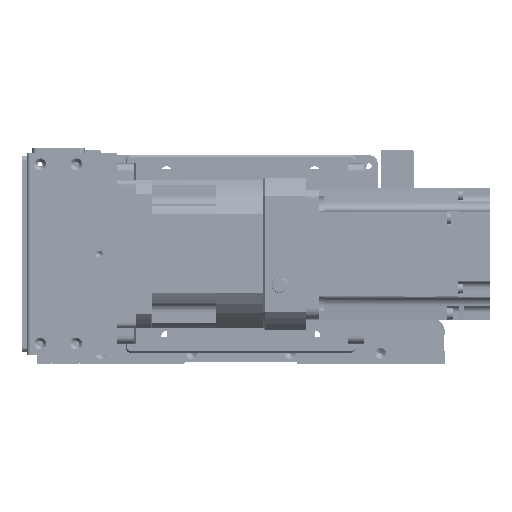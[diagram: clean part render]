
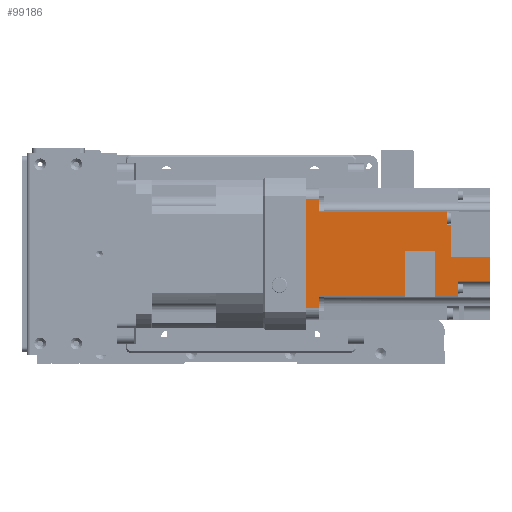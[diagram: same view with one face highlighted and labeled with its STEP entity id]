
A CAD part, front view. The second image highlights one B-rep face of the part: STEP entity #99186.
In plain terms, the highlighted planar face has unit normal (0, -1, 0.003).
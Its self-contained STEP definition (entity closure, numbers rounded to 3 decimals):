
#4140=PLANE('',#107506);
#10253=FACE_OUTER_BOUND('',#16115,.T.);
#16115=EDGE_LOOP('',(#83112,#83113,#83114,#83115,#83116,#83117,#83118,#83119,
#83120,#83121,#83122,#83123,#83124,#83125,#83126,#83127,#83128,#83129,#83130,
#83131,#83132,#83133,#83134,#83135,#83136,#83137));
#23862=LINE('',#157985,#35032);
#23863=LINE('',#157988,#35033);
#23868=LINE('',#158030,#35038);
#23872=LINE('',#158059,#35042);
#23875=LINE('',#158070,#35045);
#23876=LINE('',#158074,#35046);
#23877=LINE('',#158076,#35047);
#23878=LINE('',#158077,#35048);
#23879=LINE('',#158079,#35049);
#23880=LINE('',#158081,#35050);
#23881=LINE('',#158083,#35051);
#23882=LINE('',#158084,#35052);
#23883=LINE('',#158086,#35053);
#23884=LINE('',#158088,#35054);
#23885=LINE('',#158090,#35055);
#23886=LINE('',#158092,#35056);
#23887=LINE('',#158094,#35057);
#23888=LINE('',#158096,#35058);
#23889=LINE('',#158098,#35059);
#23890=LINE('',#158100,#35060);
#23891=LINE('',#158102,#35061);
#23892=LINE('',#158104,#35062);
#23893=LINE('',#158106,#35063);
#23894=LINE('',#158108,#35064);
#23895=LINE('',#158110,#35065);
#23896=LINE('',#158111,#35066);
#35032=VECTOR('',#126022,3.);
#35033=VECTOR('',#126025,0.009);
#35038=VECTOR('',#126064,0.009);
#35042=VECTOR('',#126094,7.342);
#35045=VECTOR('',#126105,8.);
#35046=VECTOR('',#126108,2.548);
#35047=VECTOR('',#126109,2.682);
#35048=VECTOR('',#126110,75.);
#35049=VECTOR('',#126111,66.);
#35050=VECTOR('',#126112,8.);
#35051=VECTOR('',#126113,7.342);
#35052=VECTOR('',#126114,3.);
#35053=VECTOR('',#126115,49.1);
#35054=VECTOR('',#126116,27.466);
#35055=VECTOR('',#126117,18.55);
#35056=VECTOR('',#126118,27.466);
#35057=VECTOR('',#126119,13.85);
#35058=VECTOR('',#126120,8.966);
#35059=VECTOR('',#126121,19.5);
#35060=VECTOR('',#126122,14.5);
#35061=VECTOR('',#126123,23.5);
#35062=VECTOR('',#126124,19.4);
#35063=VECTOR('',#126125,0.5);
#35064=VECTOR('',#126126,0.001);
#35065=VECTOR('',#126127,2.);
#35066=VECTOR('',#126128,3.238);
#48792=VERTEX_POINT('',#157979);
#48794=VERTEX_POINT('',#157983);
#48795=VERTEX_POINT('',#157987);
#48814=VERTEX_POINT('',#158027);
#48815=VERTEX_POINT('',#158029);
#48826=VERTEX_POINT('',#158056);
#48831=VERTEX_POINT('',#158068);
#48832=VERTEX_POINT('',#158072);
#48833=VERTEX_POINT('',#158073);
#48834=VERTEX_POINT('',#158075);
#48835=VERTEX_POINT('',#158078);
#48836=VERTEX_POINT('',#158080);
#48837=VERTEX_POINT('',#158082);
#48838=VERTEX_POINT('',#158085);
#48839=VERTEX_POINT('',#158087);
#48840=VERTEX_POINT('',#158089);
#48841=VERTEX_POINT('',#158091);
#48842=VERTEX_POINT('',#158093);
#48843=VERTEX_POINT('',#158095);
#48844=VERTEX_POINT('',#158097);
#48845=VERTEX_POINT('',#158099);
#48846=VERTEX_POINT('',#158101);
#48847=VERTEX_POINT('',#158103);
#48848=VERTEX_POINT('',#158105);
#48849=VERTEX_POINT('',#158107);
#48850=VERTEX_POINT('',#158109);
#60928=EDGE_CURVE('',#48794,#48792,#23862,.T.);
#60929=EDGE_CURVE('',#48792,#48795,#23863,.T.);
#60949=EDGE_CURVE('',#48814,#48815,#23868,.T.);
#60963=EDGE_CURVE('',#48794,#48826,#23872,.T.);
#60969=EDGE_CURVE('',#48826,#48831,#23875,.T.);
#60970=EDGE_CURVE('',#48832,#48833,#23876,.T.);
#60971=EDGE_CURVE('',#48834,#48832,#23877,.T.);
#60972=EDGE_CURVE('',#48834,#48795,#23878,.T.);
#60973=EDGE_CURVE('',#48831,#48835,#23879,.T.);
#60974=EDGE_CURVE('',#48835,#48836,#23880,.T.);
#60975=EDGE_CURVE('',#48836,#48837,#23881,.T.);
#60976=EDGE_CURVE('',#48837,#48815,#23882,.T.);
#60977=EDGE_CURVE('',#48838,#48814,#23883,.T.);
#60978=EDGE_CURVE('',#48838,#48839,#23884,.T.);
#60979=EDGE_CURVE('',#48839,#48840,#23885,.T.);
#60980=EDGE_CURVE('',#48841,#48840,#23886,.T.);
#60981=EDGE_CURVE('',#48841,#48842,#23887,.T.);
#60982=EDGE_CURVE('',#48843,#48842,#23888,.T.);
#60983=EDGE_CURVE('',#48844,#48843,#23889,.T.);
#60984=EDGE_CURVE('',#48844,#48845,#23890,.T.);
#60985=EDGE_CURVE('',#48845,#48846,#23891,.T.);
#60986=EDGE_CURVE('',#48846,#48847,#23892,.T.);
#60987=EDGE_CURVE('',#48847,#48848,#23893,.T.);
#60988=EDGE_CURVE('',#48849,#48848,#23894,.T.);
#60989=EDGE_CURVE('',#48849,#48850,#23895,.T.);
#60990=EDGE_CURVE('',#48833,#48850,#23896,.T.);
#83112=ORIENTED_EDGE('',*,*,#60970,.F.);
#83113=ORIENTED_EDGE('',*,*,#60971,.F.);
#83114=ORIENTED_EDGE('',*,*,#60972,.T.);
#83115=ORIENTED_EDGE('',*,*,#60929,.F.);
#83116=ORIENTED_EDGE('',*,*,#60928,.F.);
#83117=ORIENTED_EDGE('',*,*,#60963,.T.);
#83118=ORIENTED_EDGE('',*,*,#60969,.T.);
#83119=ORIENTED_EDGE('',*,*,#60973,.T.);
#83120=ORIENTED_EDGE('',*,*,#60974,.T.);
#83121=ORIENTED_EDGE('',*,*,#60975,.T.);
#83122=ORIENTED_EDGE('',*,*,#60976,.T.);
#83123=ORIENTED_EDGE('',*,*,#60949,.F.);
#83124=ORIENTED_EDGE('',*,*,#60977,.F.);
#83125=ORIENTED_EDGE('',*,*,#60978,.T.);
#83126=ORIENTED_EDGE('',*,*,#60979,.T.);
#83127=ORIENTED_EDGE('',*,*,#60980,.F.);
#83128=ORIENTED_EDGE('',*,*,#60981,.T.);
#83129=ORIENTED_EDGE('',*,*,#60982,.F.);
#83130=ORIENTED_EDGE('',*,*,#60983,.F.);
#83131=ORIENTED_EDGE('',*,*,#60984,.T.);
#83132=ORIENTED_EDGE('',*,*,#60985,.T.);
#83133=ORIENTED_EDGE('',*,*,#60986,.T.);
#83134=ORIENTED_EDGE('',*,*,#60987,.T.);
#83135=ORIENTED_EDGE('',*,*,#60988,.F.);
#83136=ORIENTED_EDGE('',*,*,#60989,.T.);
#83137=ORIENTED_EDGE('',*,*,#60990,.F.);
#99186=ADVANCED_FACE('',(#10253),#4140,.F.);
#107506=AXIS2_PLACEMENT_3D('',#158071,#126106,#126107);
#126022=DIRECTION('',(0.,0.,-1.));
#126025=DIRECTION('',(1.,0.,0.));
#126064=DIRECTION('',(1.,0.,0.));
#126094=DIRECTION('',(1.,0.,0.));
#126105=DIRECTION('',(0.,0.,1.));
#126106=DIRECTION('center_axis',(0.,1.,0.));
#126107=DIRECTION('ref_axis',(1.,0.,0.));
#126108=DIRECTION('',(-1.,0.,0.));
#126109=DIRECTION('',(-1.,0.,0.));
#126110=DIRECTION('',(0.,0.,1.));
#126111=DIRECTION('',(-1.,0.,0.));
#126112=DIRECTION('',(0.,0.,-1.));
#126113=DIRECTION('',(1.,0.,0.));
#126114=DIRECTION('',(0.,0.,-1.));
#126115=DIRECTION('',(0.,0.,1.));
#126116=DIRECTION('',(1.,0.,0.));
#126117=DIRECTION('',(0.,0.,-1.));
#126118=DIRECTION('',(1.,0.,0.));
#126119=DIRECTION('',(0.,0.,-1.));
#126120=DIRECTION('',(-1.,0.,0.));
#126121=DIRECTION('',(0.,0.,1.));
#126122=DIRECTION('',(1.,0.,0.));
#126123=DIRECTION('',(0.,0.,1.));
#126124=DIRECTION('',(1.,0.,0.));
#126125=DIRECTION('',(0.,0.,1.));
#126126=DIRECTION('',(1.,0.,0.));
#126127=DIRECTION('',(0.,0.,1.));
#126128=DIRECTION('',(-1.,0.,0.));
#157979=CARTESIAN_POINT('',(25.658,-40.,-11.));
#157983=CARTESIAN_POINT('',(25.658,-40.,-8.));
#157985=CARTESIAN_POINT('',(25.658,-40.,-8.));
#157987=CARTESIAN_POINT('',(25.666,-40.,-11.));
#157988=CARTESIAN_POINT('',(25.658,-40.,-11.));
#158027=CARTESIAN_POINT('',(-25.666,-40.,-11.));
#158029=CARTESIAN_POINT('',(-25.658,-40.,-11.));
#158030=CARTESIAN_POINT('',(-25.666,-40.,-11.));
#158056=CARTESIAN_POINT('',(33.,-40.,-8.));
#158059=CARTESIAN_POINT('',(25.658,-40.,-8.));
#158068=CARTESIAN_POINT('',(33.,-40.,0.));
#158070=CARTESIAN_POINT('',(33.,-40.,-8.));
#158071=CARTESIAN_POINT('Origin',(0.,-40.,-5.5));
#158072=CARTESIAN_POINT('',(22.985,-40.,-86.));
#158073=CARTESIAN_POINT('',(20.437,-40.,-86.));
#158074=CARTESIAN_POINT('',(22.985,-40.,-86.));
#158075=CARTESIAN_POINT('',(25.666,-40.,-86.));
#158076=CARTESIAN_POINT('',(25.666,-40.,-86.));
#158077=CARTESIAN_POINT('',(25.666,-40.,-86.));
#158078=CARTESIAN_POINT('',(-33.,-40.,0.));
#158079=CARTESIAN_POINT('',(33.,-40.,0.));
#158080=CARTESIAN_POINT('',(-33.,-40.,-8.));
#158081=CARTESIAN_POINT('',(-33.,-40.,0.));
#158082=CARTESIAN_POINT('',(-25.658,-40.,-8.));
#158083=CARTESIAN_POINT('',(-33.,-40.,-8.));
#158084=CARTESIAN_POINT('',(-25.658,-40.,-8.));
#158085=CARTESIAN_POINT('',(-25.666,-40.,-60.1));
#158086=CARTESIAN_POINT('',(-25.666,-40.,-60.1));
#158087=CARTESIAN_POINT('',(1.8,-40.,-60.1));
#158088=CARTESIAN_POINT('',(-25.666,-40.,-60.1));
#158089=CARTESIAN_POINT('',(1.8,-40.,-78.65));
#158090=CARTESIAN_POINT('',(1.8,-40.,-60.1));
#158091=CARTESIAN_POINT('',(-25.666,-40.,-78.65));
#158092=CARTESIAN_POINT('',(-25.666,-40.,-78.65));
#158093=CARTESIAN_POINT('',(-25.666,-40.,-92.5));
#158094=CARTESIAN_POINT('',(-25.666,-40.,-78.65));
#158095=CARTESIAN_POINT('',(-16.7,-40.,-92.5));
#158096=CARTESIAN_POINT('',(-16.7,-40.,-92.5));
#158097=CARTESIAN_POINT('',(-16.7,-40.,-112.));
#158098=CARTESIAN_POINT('',(-16.7,-40.,-112.));
#158099=CARTESIAN_POINT('',(-2.2,-40.,-112.));
#158100=CARTESIAN_POINT('',(-16.7,-40.,-112.));
#158101=CARTESIAN_POINT('',(-2.2,-40.,-88.5));
#158102=CARTESIAN_POINT('',(-2.2,-40.,-112.));
#158103=CARTESIAN_POINT('',(17.2,-40.,-88.5));
#158104=CARTESIAN_POINT('',(-2.2,-40.,-88.5));
#158105=CARTESIAN_POINT('',(17.2,-40.,-88.));
#158106=CARTESIAN_POINT('',(17.2,-40.,-88.5));
#158107=CARTESIAN_POINT('',(17.199,-40.,-88.));
#158108=CARTESIAN_POINT('',(17.199,-40.,-88.));
#158109=CARTESIAN_POINT('',(17.199,-40.,-86.));
#158110=CARTESIAN_POINT('',(17.199,-40.,-88.));
#158111=CARTESIAN_POINT('',(20.437,-40.,-86.));
